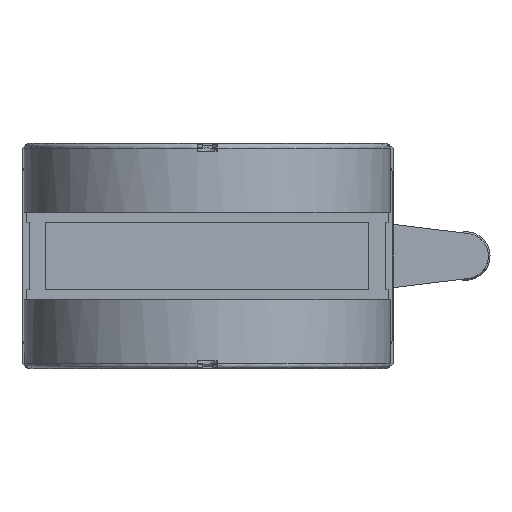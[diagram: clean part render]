
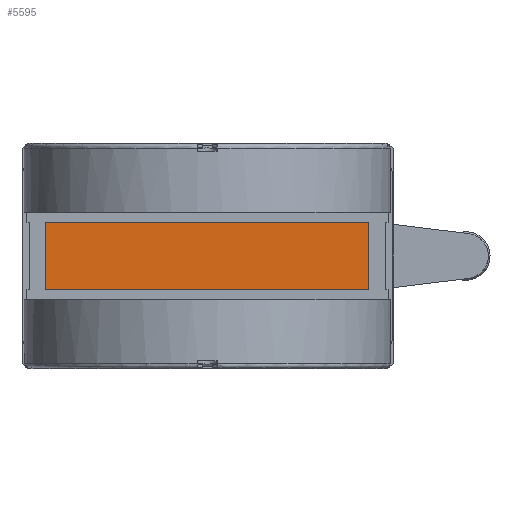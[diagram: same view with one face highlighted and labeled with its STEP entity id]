
A CAD part, front view. The second image highlights one B-rep face of the part: STEP entity #5595.
In plain terms, the highlighted free-form (B-spline) face has degree [1, 1] with [2, 2] control points.
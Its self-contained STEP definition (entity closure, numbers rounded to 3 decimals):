
#5515=CARTESIAN_POINT('V62',(50.075,56.05,
   23.975));
#5516=VERTEX_POINT('V62',#5515);
#5517=CARTESIAN_POINT('V53',(50.075,56.05,
   3.));
#5518=VERTEX_POINT('V53',#5517);
#5519=CARTESIAN_POINT('E95',(50.075,56.05,
   23.975));
#5520=CARTESIAN_POINT('E95',(50.075,56.05,
   3.));
#5521=QUASI_UNIFORM_CURVE('E95',1,(#5519,#5520),.POLYLINE_FORM.,.F.,
   .U.);
#5522=EDGE_CURVE('E95',#5516,#5518,#5521,.T.);
#5553=CARTESIAN_POINT('V60',(-50.075,56.05,
   23.975));
#5554=VERTEX_POINT('V60',#5553);
#5560=CARTESIAN_POINT('E79',(-50.075,56.05,
   23.975));
#5561=CARTESIAN_POINT('E79',(50.075,56.05,
   23.975));
#5562=QUASI_UNIFORM_CURVE('E79',1,(#5560,#5561),.POLYLINE_FORM.,.F.,
   .U.);
#5563=EDGE_CURVE('E79',#5554,#5516,#5562,.T.);
#5574=CARTESIAN_POINT('F26',(-52.579,56.05,
   2.476));
#5575=CARTESIAN_POINT('F26',(-52.579,56.05,
   24.499));
#5576=CARTESIAN_POINT('F26',(52.579,56.05,
   2.476));
#5577=CARTESIAN_POINT('F26',(52.579,56.05,
   24.499));
#5578=B_SPLINE_SURFACE_WITH_KNOTS('F26',1,1,((#5574,#5576),(#5575,
   #5577)),.PLANE_SURF.,.F.,.F.,.U.,(2,2),(2,2),(0.0,1.0),(0.0,
   4.775),.UNSPECIFIED.);
#5579=ORIENTED_EDGE('E79',*,*,#5563,.F.);
#5580=CARTESIAN_POINT('V51',(-50.075,56.05,
   3.));
#5581=VERTEX_POINT('V51',#5580);
#5582=CARTESIAN_POINT('E96',(-50.075,56.05,
   3.));
#5583=CARTESIAN_POINT('E96',(-50.075,56.05,
   23.975));
#5584=QUASI_UNIFORM_CURVE('E96',1,(#5582,#5583),.POLYLINE_FORM.,.F.,
   .U.);
#5585=EDGE_CURVE('E96',#5581,#5554,#5584,.T.);
#5586=ORIENTED_EDGE('E96',*,*,#5585,.F.);
#5587=CARTESIAN_POINT('E66',(50.075,56.05,
   3.));
#5588=CARTESIAN_POINT('E66',(-50.075,56.05,
   3.));
#5589=QUASI_UNIFORM_CURVE('E66',1,(#5587,#5588),.POLYLINE_FORM.,.F.,
   .U.);
#5590=EDGE_CURVE('E66',#5518,#5581,#5589,.T.);
#5591=ORIENTED_EDGE('E66',*,*,#5590,.F.);
#5592=ORIENTED_EDGE('E95',*,*,#5522,.F.);
#5593=EDGE_LOOP('F26',(#5579,#5586,#5591,#5592));
#5594=FACE_OUTER_BOUND('F26',#5593,.F.);
#5595=ADVANCED_FACE('F26',(#5594),#5578,.T.);
